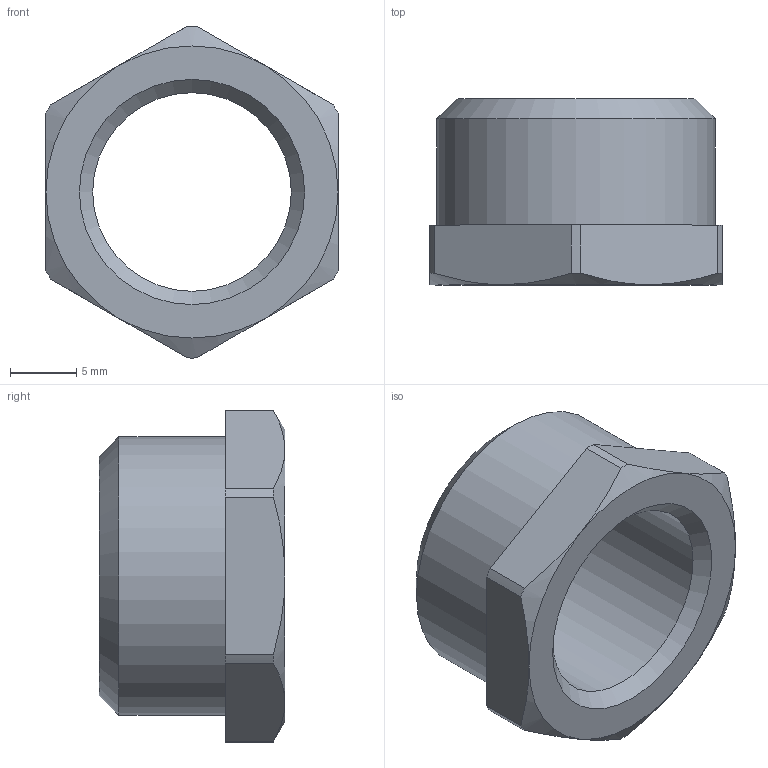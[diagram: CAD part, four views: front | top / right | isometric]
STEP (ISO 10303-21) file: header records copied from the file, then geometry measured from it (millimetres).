
FILE_DESCRIPTION(('STEP AP203'), '1');
FILE_NAME('ÂÐ.753128.028 - VTr.581.N.0403 Ôèò. ðåçüá', '2024-07-04T08:12:16', ('Boss'), (''), 'C3D Converter', 'C3D Toolkit', '');
FILE_SCHEMA(('CONFIG_CONTROL_DESIGN'));
Length unit declared in the file: millimetre
Products named in the file (1): ВР.753128.028
Bounding box: 22 x 14 x 25 mm (x, y, z)
Volume: 2572.4 mm3; surface area: 1977.2 mm2
Topology: 1 solids, 1 shells, 26 faces, 60 edges, 37 vertices
Faces by surface type: plane 9, cone 9, cylinder 8
Full cylindrical faces by diameter (mm): 14.95 x1, 20.955 x1
Entity records: 924 total; most frequent: CARTESIAN_POINT 377, DIRECTION 110, ORIENTED_EDGE 98, EDGE_CURVE 49, AXIS2_PLACEMENT_3D 46, VERTEX_POINT 34, EDGE_LOOP 31, ADVANCED_FACE 23
